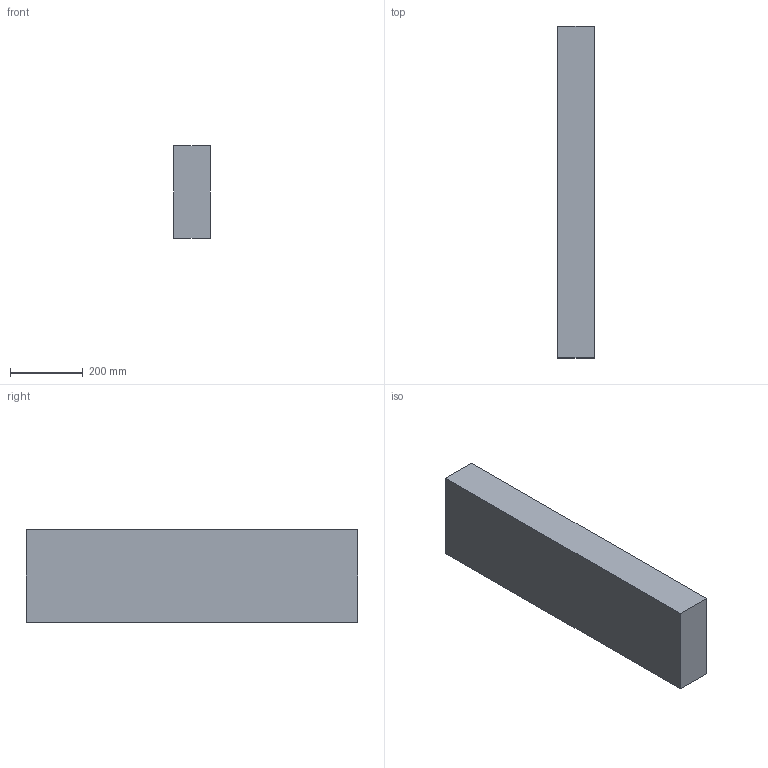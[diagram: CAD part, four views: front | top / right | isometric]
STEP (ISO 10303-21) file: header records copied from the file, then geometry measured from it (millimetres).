
FILE_DESCRIPTION(/* description */ (''),/* implementation_level */ '2;1');
FILE_NAME(/* name */ '4x10x36',/* time_stamp */ '2024-09-20T11:45:28-05:00',/* author */ (''),/* organization */ (''),/* preprocessor_version */ 'ST-DEVELOPER v19.2',/* originating_system */ 'Rhino 8.5',/* authorisation */ '');
FILE_SCHEMA (('CONFIG_CONTROL_DESIGN'));
Length unit declared in the file: inch
Products named in the file (1): Document
Bounding box: 101.6 x 914.4 x 254 mm (x, y, z)
Volume: 23597372.2 mm3; surface area: 701934.1 mm2
Topology: 1 solids, 1 shells, 6 faces, 12 edges, 8 vertices
Faces by surface type: plane 6
Entity records: 226 total; most frequent: CARTESIAN_POINT 40, ORIENTED_EDGE 24, EDGE_CURVE 12, B_SPLINE_CURVE_WITH_KNOTS 12, DIRECTION 10, VERTEX_POINT 8, AXIS2_PLACEMENT_3D 8, ORGANIZATION 7
